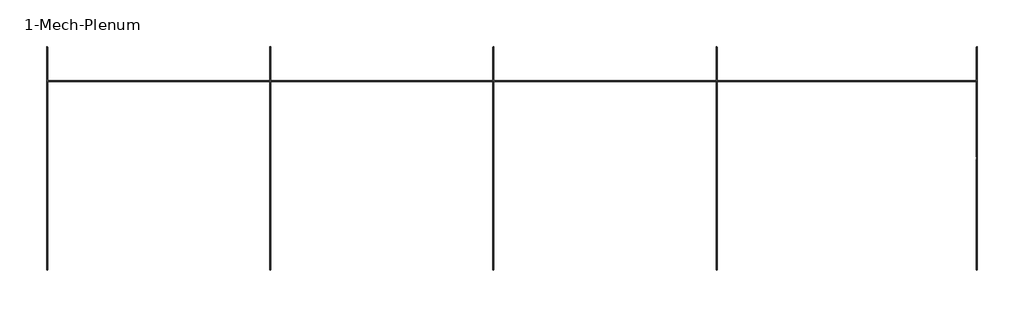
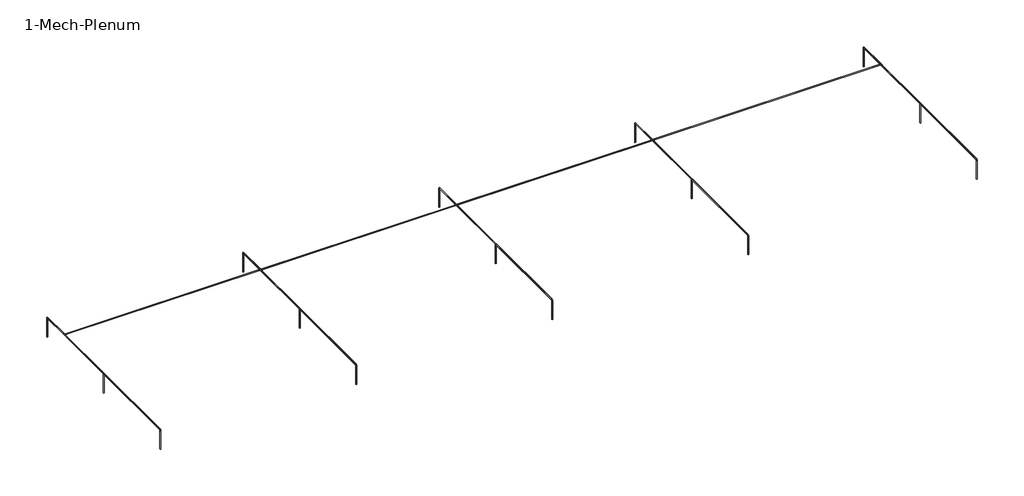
# One storey: 34 pipe segments, 20 pipe fittings.
"""IFC4 building model written with IfcOpenShell, lengths in millimetres."""

from ifc_helpers import new_model, si_unit, point, frame, frame_2d, origin, place, context, project, spatial, circle_curve, trimmed, segment, composite_curve, outline, extrude, transform, mapped, element, save
from components import cross_generic_standard_dbe3c70b, elbow_generic_standard_a088f956, tee_generic_standard_5b2ed4d4

model = new_model("IFC4")

# Units and contexts
model_context = context("Model", 3, world=origin())
ifc_project = project(units=[si_unit("LENGTHUNIT", "METRE", prefix="MILLI")], contexts=[model_context])

# Site, building, storey
site = spatial("IfcSite", under=ifc_project)
building = spatial("IfcBuilding", under=site)
storey = spatial("IfcBuildingStorey", under=building, Name="1-Mech-Plenum", Elevation=2514.6)

# Pipe fittings
placement = place(None, origin())
cross_generic_standard_shape = cross_generic_standard_dbe3c70b(model_context)
element("IfcPipeFitting", 1, ObjectType="Cross - Generic : Standard", at=placement, inside=storey, context=model_context, shape_type="MappedRepresentation", body=[
    mapped(cross_generic_standard_shape, transform((-30646.6605923, 16917.6658433, 2895.6), x_axis=(0.0, 1.0, 0.0), y_axis=(-1.0, 0.0, 0.0), z_axis=(0.0, 0.0, 1.0))),
])
element("IfcPipeFitting", 2, ObjectType="Cross - Generic : Standard", at=placement, inside=storey, context=model_context, shape_type="MappedRepresentation", body=[
    mapped(cross_generic_standard_shape, transform((-26989.0605923, 16917.6658433, 2895.6), x_axis=(0.0, 1.0, 0.0), y_axis=(-1.0, 0.0, 0.0), z_axis=(0.0, 0.0, 1.0))),
])
element("IfcPipeFitting", 3, ObjectType="Cross - Generic : Standard", at=placement, inside=storey, context=model_context, shape_type="MappedRepresentation", body=[
    mapped(cross_generic_standard_shape, transform((-23331.4605923, 16917.6658433, 2895.6), x_axis=(0.0, 1.0, 0.0), y_axis=(-1.0, 0.0, 0.0), z_axis=(0.0, 0.0, 1.0))),
])
elbow_generic_standard_shape = elbow_generic_standard_a088f956(model_context)
element("IfcPipeFitting", 4, ObjectType="Elbow - Generic : Standard", at=placement, inside=storey, context=model_context, shape_type="MappedRepresentation", body=[
    mapped(elbow_generic_standard_shape, transform((-34304.2605923, 17476.465681, 2895.6), x_axis=(0.0, 0.0, 1.0), y_axis=(0.0, -1.0, 0.0), z_axis=(1.0, 0.0, 0.0))),
])
element("IfcPipeFitting", 5, ObjectType="Elbow - Generic : Standard", at=placement, inside=storey, context=model_context, shape_type="MappedRepresentation", body=[
    mapped(elbow_generic_standard_shape, transform((-30646.6605923, 17476.465681, 2895.6), x_axis=(0.0, 0.0, 1.0), y_axis=(0.0, -1.0, 0.0), z_axis=(1.0, 0.0, 0.0))),
])
element("IfcPipeFitting", 6, ObjectType="Elbow - Generic : Standard", at=placement, inside=storey, context=model_context, shape_type="MappedRepresentation", body=[
    mapped(elbow_generic_standard_shape, transform((-26989.0605923, 17476.465681, 2895.6), x_axis=(0.0, 0.0, 1.0), y_axis=(0.0, -1.0, 0.0), z_axis=(1.0, 0.0, 0.0))),
])
element("IfcPipeFitting", 7, ObjectType="Elbow - Generic : Standard", at=placement, inside=storey, context=model_context, shape_type="MappedRepresentation", body=[
    mapped(elbow_generic_standard_shape, transform((-23331.4605923, 17476.465681, 2895.6), x_axis=(0.0, 0.0, 1.0), y_axis=(0.0, -1.0, 0.0), z_axis=(1.0, 0.0, 0.0))),
])
element("IfcPipeFitting", 8, ObjectType="Elbow - Generic : Standard", at=placement, inside=storey, context=model_context, shape_type="MappedRepresentation", body=[
    mapped(elbow_generic_standard_shape, transform((-19064.2605923, 17476.465681, 2895.6), x_axis=(0.0, 0.0, 1.0), y_axis=(0.0, -1.0, 0.0), z_axis=(1.0, 0.0, 0.0))),
])
element("IfcPipeFitting", 9, ObjectType="Elbow - Generic : Standard", at=placement, inside=storey, context=model_context, shape_type="MappedRepresentation", body=[
    mapped(elbow_generic_standard_shape, transform((-34304.2605923, 13821.54154, 2895.6), x_axis=(0.0, 0.0, 1.0), y_axis=(0.0, 1.0, 0.0), z_axis=(-1.0, 0.0, 0.0))),
])
element("IfcPipeFitting", 10, ObjectType="Elbow - Generic : Standard", at=placement, inside=storey, context=model_context, shape_type="MappedRepresentation", body=[
    mapped(elbow_generic_standard_shape, transform((-30646.6605923, 13821.54154, 2895.6), x_axis=(0.0, 0.0, 1.0), y_axis=(0.0, 1.0, 0.0), z_axis=(-1.0, 0.0, 0.0))),
])
element("IfcPipeFitting", 11, ObjectType="Elbow - Generic : Standard", at=placement, inside=storey, context=model_context, shape_type="MappedRepresentation", body=[
    mapped(elbow_generic_standard_shape, transform((-26989.0605923, 13821.54154, 2895.6), x_axis=(0.0, 0.0, 1.0), y_axis=(0.0, 1.0, 0.0), z_axis=(-1.0, 0.0, 0.0))),
])
element("IfcPipeFitting", 12, ObjectType="Elbow - Generic : Standard", at=placement, inside=storey, context=model_context, shape_type="MappedRepresentation", body=[
    mapped(elbow_generic_standard_shape, transform((-23331.4605923, 13821.54154, 2895.6), x_axis=(0.0, 0.0, 1.0), y_axis=(0.0, 1.0, 0.0), z_axis=(-1.0, 0.0, 0.0))),
])
element("IfcPipeFitting", 13, ObjectType="Elbow - Generic : Standard", at=placement, inside=storey, context=model_context, shape_type="MappedRepresentation", body=[
    mapped(elbow_generic_standard_shape, transform((-19064.2605923, 13821.54154, 2895.6), x_axis=(0.0, 0.0, 1.0), y_axis=(0.0, 1.0, 0.0), z_axis=(-1.0, 0.0, 0.0))),
])
tee_generic_standard_shape = tee_generic_standard_5b2ed4d4(model_context)
element("IfcPipeFitting", 14, ObjectType="Tee - Generic : Standard", at=placement, inside=storey, context=model_context, shape_type="MappedRepresentation", body=[
    mapped(tee_generic_standard_shape, transform((-30646.6605923, 15647.665681, 2895.6), x_axis=(0.0, -1.0, 0.0), y_axis=(0.0, 0.0, 1.0), z_axis=(-1.0, 0.0, 0.0))),
])
element("IfcPipeFitting", 15, ObjectType="Tee - Generic : Standard", at=placement, inside=storey, context=model_context, shape_type="MappedRepresentation", body=[
    mapped(tee_generic_standard_shape, transform((-26989.0605923, 15647.665681, 2895.6), x_axis=(0.0, -1.0, 0.0), y_axis=(0.0, 0.0, 1.0), z_axis=(-1.0, 0.0, 0.0))),
])
element("IfcPipeFitting", 16, ObjectType="Tee - Generic : Standard", at=placement, inside=storey, context=model_context, shape_type="MappedRepresentation", body=[
    mapped(tee_generic_standard_shape, transform((-23331.4605923, 15647.665681, 2895.6), x_axis=(0.0, -1.0, 0.0), y_axis=(0.0, 0.0, 1.0), z_axis=(-1.0, 0.0, 0.0))),
])
element("IfcPipeFitting", 17, ObjectType="Tee - Generic : Standard", at=placement, inside=storey, context=model_context, shape_type="MappedRepresentation", body=[
    mapped(tee_generic_standard_shape, transform((-19064.2605923, 15647.665681, 2895.6), x_axis=(0.0, -1.0, 0.0), y_axis=(0.0, 0.0, 1.0), z_axis=(-1.0, 0.0, 0.0))),
])
element("IfcPipeFitting", 18, ObjectType="Tee - Generic : Standard", at=placement, inside=storey, context=model_context, shape_type="MappedRepresentation", body=[
    mapped(tee_generic_standard_shape, transform((-19064.2605923, 16917.6658433, 2895.6), x_axis=(0.0, 1.0, 0.0), y_axis=(1.0, 0.0, 0.0), z_axis=(0.0, 0.0, -1.0))),
])
element("IfcPipeFitting", 19, ObjectType="Tee - Generic : Standard", at=placement, inside=storey, context=model_context, shape_type="MappedRepresentation", body=[
    mapped(tee_generic_standard_shape, transform((-34304.2605923, 16917.6658433, 2895.6), x_axis=(0.0, 1.0, 0.0), y_axis=(-1.0, 0.0, 0.0), z_axis=(0.0, 0.0, 1.0))),
])
element("IfcPipeFitting", 20, ObjectType="Tee - Generic : Standard", at=placement, inside=storey, context=model_context, shape_type="MappedRepresentation", body=[
    mapped(tee_generic_standard_shape, transform((-34304.2605923, 15647.665681, 2895.6), x_axis=(0.0, -1.0, 0.0), y_axis=(0.0, 0.0, 1.0), z_axis=(-1.0, 0.0, 0.0))),
])

# Pipe segments
element("IfcPipeSegment", 21, ObjectType="Wet Protection-Fire", at=placement, inside=storey, context=model_context, shape_type="SweptSolid", body=[
    extrude(outline(composite_curve([segment(trimmed(circle_curve(frame_2d((2895.6, -30646.6605923)), 7.9375), [point((2895.6, -30638.7230923))], [point((2903.5375, -30646.6605923))], False, "CARTESIAN"), True, "CONTINUOUS"), segment(trimmed(circle_curve(frame_2d((2895.6, -30646.6605923)), 7.9375), [point((2903.5375, -30646.6605923))], [point((2895.6, -30654.5980923))], False, "CARTESIAN"), True, "CONTINUOUS"), segment(trimmed(circle_curve(frame_2d((2895.6, -30646.6605923)), 7.9375), [point((2895.6, -30654.5980923))], [point((2887.6625, -30646.6605923))], False, "CARTESIAN"), True, "CONTINUOUS"), segment(trimmed(circle_curve(frame_2d((2895.6, -30646.6605923)), 7.9375), [point((2887.6625, -30646.6605923))], [point((2895.6, -30638.7230923))], False, "CARTESIAN"), True, "CONTINUOUS")], self_intersect=False)), frame((0.0, 15668.303181, 0.0), z_axis=(0.0, 1.0, 0.0), x_axis=(0.0, 0.0, 1.0)), (0.0, 0.0, 1.0), 1228.7251623),
])
element("IfcPipeSegment", 22, ObjectType="Wet Protection-Fire", at=placement, inside=storey, context=model_context, shape_type="SweptSolid", body=[
    extrude(outline(composite_curve([segment(trimmed(circle_curve(frame_2d((2895.6, -26989.0605923)), 7.9375), [point((2895.6, -26981.1230923))], [point((2903.5375, -26989.0605923))], False, "CARTESIAN"), True, "CONTINUOUS"), segment(trimmed(circle_curve(frame_2d((2895.6, -26989.0605923)), 7.9375), [point((2903.5375, -26989.0605923))], [point((2895.6, -26996.9980923))], False, "CARTESIAN"), True, "CONTINUOUS"), segment(trimmed(circle_curve(frame_2d((2895.6, -26989.0605923)), 7.9375), [point((2895.6, -26996.9980923))], [point((2887.6625, -26989.0605923))], False, "CARTESIAN"), True, "CONTINUOUS"), segment(trimmed(circle_curve(frame_2d((2895.6, -26989.0605923)), 7.9375), [point((2887.6625, -26989.0605923))], [point((2895.6, -26981.1230923))], False, "CARTESIAN"), True, "CONTINUOUS")], self_intersect=False)), frame((0.0, 15668.303181, 0.0), z_axis=(0.0, 1.0, 0.0), x_axis=(0.0, 0.0, 1.0)), (0.0, 0.0, 1.0), 1228.7251623),
])
element("IfcPipeSegment", 23, ObjectType="Wet Protection-Fire", at=placement, inside=storey, context=model_context, shape_type="SweptSolid", body=[
    extrude(outline(composite_curve([segment(trimmed(circle_curve(frame_2d((2895.6, -23331.4605923)), 7.9375), [point((2895.6, -23323.5230923))], [point((2903.5375, -23331.4605923))], False, "CARTESIAN"), True, "CONTINUOUS"), segment(trimmed(circle_curve(frame_2d((2895.6, -23331.4605923)), 7.9375), [point((2903.5375, -23331.4605923))], [point((2895.6, -23339.3980923))], False, "CARTESIAN"), True, "CONTINUOUS"), segment(trimmed(circle_curve(frame_2d((2895.6, -23331.4605923)), 7.9375), [point((2895.6, -23339.3980923))], [point((2887.6625, -23331.4605923))], False, "CARTESIAN"), True, "CONTINUOUS"), segment(trimmed(circle_curve(frame_2d((2895.6, -23331.4605923)), 7.9375), [point((2887.6625, -23331.4605923))], [point((2895.6, -23323.5230923))], False, "CARTESIAN"), True, "CONTINUOUS")], self_intersect=False)), frame((0.0, 15668.303181, 0.0), z_axis=(0.0, 1.0, 0.0), x_axis=(0.0, 0.0, 1.0)), (0.0, 0.0, 1.0), 1228.7251623),
])
element("IfcPipeSegment", 24, ObjectType="Wet Protection-Fire", at=placement, inside=storey, context=model_context, shape_type="SweptSolid", body=[
    extrude(outline(composite_curve([segment(trimmed(circle_curve(frame_2d((2895.6, -19064.2605923)), 7.9375), [point((2895.6, -19056.3230923))], [point((2903.5375, -19064.2605923))], False, "CARTESIAN"), True, "CONTINUOUS"), segment(trimmed(circle_curve(frame_2d((2895.6, -19064.2605923)), 7.9375), [point((2903.5375, -19064.2605923))], [point((2895.6, -19072.1980923))], False, "CARTESIAN"), True, "CONTINUOUS"), segment(trimmed(circle_curve(frame_2d((2895.6, -19064.2605923)), 7.9375), [point((2895.6, -19072.1980923))], [point((2887.6625, -19064.2605923))], False, "CARTESIAN"), True, "CONTINUOUS"), segment(trimmed(circle_curve(frame_2d((2895.6, -19064.2605923)), 7.9375), [point((2887.6625, -19064.2605923))], [point((2895.6, -19056.3230923))], False, "CARTESIAN"), True, "CONTINUOUS")], self_intersect=False)), frame((0.0, 15668.303181, 0.0), z_axis=(0.0, 1.0, 0.0), x_axis=(0.0, 0.0, 1.0)), (0.0, 0.0, 1.0), 1228.7251623),
])
element("IfcPipeSegment", 25, ObjectType="Wet Protection-Fire", at=placement, inside=storey, context=model_context, shape_type="SweptSolid", body=[
    extrude(outline(composite_curve([segment(trimmed(circle_curve(frame_2d((16917.6658433, 2895.6)), 7.9375), [point((16925.6033433, 2895.6))], [point((16917.6658433, 2887.6625))], False, "CARTESIAN"), True, "CONTINUOUS"), segment(trimmed(circle_curve(frame_2d((16917.6658433, 2895.6)), 7.9375), [point((16917.6658433, 2887.6625))], [point((16909.7283433, 2895.6))], False, "CARTESIAN"), True, "CONTINUOUS"), segment(trimmed(circle_curve(frame_2d((16917.6658433, 2895.6)), 7.9375), [point((16909.7283433, 2895.6))], [point((16917.6658433, 2903.5375))], False, "CARTESIAN"), True, "CONTINUOUS"), segment(trimmed(circle_curve(frame_2d((16917.6658433, 2895.6)), 7.9375), [point((16917.6658433, 2903.5375))], [point((16925.6033433, 2895.6))], False, "CARTESIAN"), True, "CONTINUOUS")], self_intersect=False)), frame((-23310.8230923, 0.0, 0.0), z_axis=(1.0, 0.0, 0.0), x_axis=(0.0, 1.0, 0.0)), (0.0, 0.0, 1.0), 4225.925),
])
element("IfcPipeSegment", 26, ObjectType="Wet Protection-Fire", at=placement, inside=storey, context=model_context, shape_type="SweptSolid", body=[
    extrude(outline(composite_curve([segment(trimmed(circle_curve(frame_2d((16917.6658433, 2895.6)), 7.9375), [point((16925.6033433, 2895.6))], [point((16917.6658433, 2887.6625))], False, "CARTESIAN"), True, "CONTINUOUS"), segment(trimmed(circle_curve(frame_2d((16917.6658433, 2895.6)), 7.9375), [point((16917.6658433, 2887.6625))], [point((16909.7283433, 2895.6))], False, "CARTESIAN"), True, "CONTINUOUS"), segment(trimmed(circle_curve(frame_2d((16917.6658433, 2895.6)), 7.9375), [point((16909.7283433, 2895.6))], [point((16917.6658433, 2903.5375))], False, "CARTESIAN"), True, "CONTINUOUS"), segment(trimmed(circle_curve(frame_2d((16917.6658433, 2895.6)), 7.9375), [point((16917.6658433, 2903.5375))], [point((16925.6033433, 2895.6))], False, "CARTESIAN"), True, "CONTINUOUS")], self_intersect=False)), frame((-26968.4230923, 0.0, 0.0), z_axis=(1.0, 0.0, 0.0), x_axis=(0.0, 1.0, 0.0)), (0.0, 0.0, 1.0), 3616.325),
])
element("IfcPipeSegment", 27, ObjectType="Wet Protection-Fire", at=placement, inside=storey, context=model_context, shape_type="SweptSolid", body=[
    extrude(outline(composite_curve([segment(trimmed(circle_curve(frame_2d((16917.6658433, 2895.6)), 7.9375), [point((16925.6033433, 2895.6))], [point((16917.6658433, 2887.6625))], False, "CARTESIAN"), True, "CONTINUOUS"), segment(trimmed(circle_curve(frame_2d((16917.6658433, 2895.6)), 7.9375), [point((16917.6658433, 2887.6625))], [point((16909.7283433, 2895.6))], False, "CARTESIAN"), True, "CONTINUOUS"), segment(trimmed(circle_curve(frame_2d((16917.6658433, 2895.6)), 7.9375), [point((16909.7283433, 2895.6))], [point((16917.6658433, 2903.5375))], False, "CARTESIAN"), True, "CONTINUOUS"), segment(trimmed(circle_curve(frame_2d((16917.6658433, 2895.6)), 7.9375), [point((16917.6658433, 2903.5375))], [point((16925.6033433, 2895.6))], False, "CARTESIAN"), True, "CONTINUOUS")], self_intersect=False)), frame((-30626.0230923, 0.0, 0.0), z_axis=(1.0, 0.0, 0.0), x_axis=(0.0, 1.0, 0.0)), (0.0, 0.0, 1.0), 3616.325),
])
element("IfcPipeSegment", 28, ObjectType="Wet Protection-Fire", at=placement, inside=storey, context=model_context, shape_type="SweptSolid", body=[
    extrude(outline(composite_curve([segment(trimmed(circle_curve(frame_2d((16917.6658433, 2895.6)), 7.9375), [point((16925.6033433, 2895.6))], [point((16917.6658433, 2887.6625))], False, "CARTESIAN"), True, "CONTINUOUS"), segment(trimmed(circle_curve(frame_2d((16917.6658433, 2895.6)), 7.9375), [point((16917.6658433, 2887.6625))], [point((16909.7283433, 2895.6))], False, "CARTESIAN"), True, "CONTINUOUS"), segment(trimmed(circle_curve(frame_2d((16917.6658433, 2895.6)), 7.9375), [point((16909.7283433, 2895.6))], [point((16917.6658433, 2903.5375))], False, "CARTESIAN"), True, "CONTINUOUS"), segment(trimmed(circle_curve(frame_2d((16917.6658433, 2895.6)), 7.9375), [point((16917.6658433, 2903.5375))], [point((16925.6033433, 2895.6))], False, "CARTESIAN"), True, "CONTINUOUS")], self_intersect=False)), frame((-34283.6230923, 0.0, 0.0), z_axis=(1.0, 0.0, 0.0), x_axis=(0.0, 1.0, 0.0)), (0.0, 0.0, 1.0), 3616.325),
])
element("IfcPipeSegment", 29, ObjectType="Wet Protection-Fire", at=placement, inside=storey, context=model_context, shape_type="SweptSolid", body=[
    extrude(outline(composite_curve([segment(trimmed(circle_curve(frame_2d((2895.6, -34304.2605923)), 7.9375), [point((2895.6, -34312.1980923))], [point((2887.6625, -34304.2605923))], False, "CARTESIAN"), True, "CONTINUOUS"), segment(trimmed(circle_curve(frame_2d((2895.6, -34304.2605923)), 7.9375), [point((2887.6625, -34304.2605923))], [point((2895.6, -34296.3230923))], False, "CARTESIAN"), True, "CONTINUOUS"), segment(trimmed(circle_curve(frame_2d((2895.6, -34304.2605923)), 7.9375), [point((2895.6, -34296.3230923))], [point((2903.5375, -34304.2605923))], False, "CARTESIAN"), True, "CONTINUOUS"), segment(trimmed(circle_curve(frame_2d((2895.6, -34304.2605923)), 7.9375), [point((2903.5375, -34304.2605923))], [point((2895.6, -34312.1980923))], False, "CARTESIAN"), True, "CONTINUOUS")], self_intersect=False)), frame((0.0, 15668.303181, 0.0), z_axis=(0.0, 1.0, 0.0), x_axis=(0.0, 0.0, 1.0)), (0.0, 0.0, 1.0), 1228.7251623),
])
element("IfcPipeSegment", 30, ObjectType="Wet Protection-Fire", at=placement, inside=storey, context=model_context, shape_type="SweptSolid", body=[
    extrude(outline(composite_curve([segment(trimmed(circle_curve(frame_2d((-34304.2605923, 15647.665681)), 7.9375), [point((-34312.1980923, 15647.665681))], [point((-34304.2605923, 15655.603181))], False, "CARTESIAN"), True, "CONTINUOUS"), segment(trimmed(circle_curve(frame_2d((-34304.2605923, 15647.665681)), 7.9375), [point((-34304.2605923, 15655.603181))], [point((-34296.3230923, 15647.665681))], False, "CARTESIAN"), True, "CONTINUOUS"), segment(trimmed(circle_curve(frame_2d((-34304.2605923, 15647.665681)), 7.9375), [point((-34296.3230923, 15647.665681))], [point((-34304.2605923, 15639.728181))], False, "CARTESIAN"), True, "CONTINUOUS"), segment(trimmed(circle_curve(frame_2d((-34304.2605923, 15647.665681)), 7.9375), [point((-34304.2605923, 15639.728181))], [point((-34312.1980923, 15647.665681))], False, "CARTESIAN"), True, "CONTINUOUS")], self_intersect=False)), frame((0.0, 0.0, 2514.6), z_axis=(0.0, 0.0, 1.0), x_axis=(1.0, 0.0, 0.0)), (0.0, 0.0, 1.0), 360.3625),
])
element("IfcPipeSegment", 31, ObjectType="Wet Protection-Fire", at=placement, inside=storey, context=model_context, shape_type="SweptSolid", body=[
    extrude(outline(composite_curve([segment(trimmed(circle_curve(frame_2d((-30646.6605923, 15647.665681)), 7.9375), [point((-30654.5980923, 15647.665681))], [point((-30646.6605923, 15655.603181))], False, "CARTESIAN"), True, "CONTINUOUS"), segment(trimmed(circle_curve(frame_2d((-30646.6605923, 15647.665681)), 7.9375), [point((-30646.6605923, 15655.603181))], [point((-30638.7230923, 15647.665681))], False, "CARTESIAN"), True, "CONTINUOUS"), segment(trimmed(circle_curve(frame_2d((-30646.6605923, 15647.665681)), 7.9375), [point((-30638.7230923, 15647.665681))], [point((-30646.6605923, 15639.728181))], False, "CARTESIAN"), True, "CONTINUOUS"), segment(trimmed(circle_curve(frame_2d((-30646.6605923, 15647.665681)), 7.9375), [point((-30646.6605923, 15639.728181))], [point((-30654.5980923, 15647.665681))], False, "CARTESIAN"), True, "CONTINUOUS")], self_intersect=False)), frame((0.0, 0.0, 2514.6), z_axis=(0.0, 0.0, 1.0), x_axis=(1.0, 0.0, 0.0)), (0.0, 0.0, 1.0), 360.3625),
])
element("IfcPipeSegment", 32, ObjectType="Wet Protection-Fire", at=placement, inside=storey, context=model_context, shape_type="SweptSolid", body=[
    extrude(outline(composite_curve([segment(trimmed(circle_curve(frame_2d((-26989.0605923, 15647.665681)), 7.9375), [point((-26996.9980923, 15647.665681))], [point((-26989.0605923, 15655.603181))], False, "CARTESIAN"), True, "CONTINUOUS"), segment(trimmed(circle_curve(frame_2d((-26989.0605923, 15647.665681)), 7.9375), [point((-26989.0605923, 15655.603181))], [point((-26981.1230923, 15647.665681))], False, "CARTESIAN"), True, "CONTINUOUS"), segment(trimmed(circle_curve(frame_2d((-26989.0605923, 15647.665681)), 7.9375), [point((-26981.1230923, 15647.665681))], [point((-26989.0605923, 15639.728181))], False, "CARTESIAN"), True, "CONTINUOUS"), segment(trimmed(circle_curve(frame_2d((-26989.0605923, 15647.665681)), 7.9375), [point((-26989.0605923, 15639.728181))], [point((-26996.9980923, 15647.665681))], False, "CARTESIAN"), True, "CONTINUOUS")], self_intersect=False)), frame((0.0, 0.0, 2514.6), z_axis=(0.0, 0.0, 1.0), x_axis=(1.0, 0.0, 0.0)), (0.0, 0.0, 1.0), 360.3625),
])
element("IfcPipeSegment", 33, ObjectType="Wet Protection-Fire", at=placement, inside=storey, context=model_context, shape_type="SweptSolid", body=[
    extrude(outline(composite_curve([segment(trimmed(circle_curve(frame_2d((-23331.4605923, 15647.665681)), 7.9375), [point((-23339.3980923, 15647.665681))], [point((-23331.4605923, 15655.603181))], False, "CARTESIAN"), True, "CONTINUOUS"), segment(trimmed(circle_curve(frame_2d((-23331.4605923, 15647.665681)), 7.9375), [point((-23331.4605923, 15655.603181))], [point((-23323.5230923, 15647.665681))], False, "CARTESIAN"), True, "CONTINUOUS"), segment(trimmed(circle_curve(frame_2d((-23331.4605923, 15647.665681)), 7.9375), [point((-23323.5230923, 15647.665681))], [point((-23331.4605923, 15639.728181))], False, "CARTESIAN"), True, "CONTINUOUS"), segment(trimmed(circle_curve(frame_2d((-23331.4605923, 15647.665681)), 7.9375), [point((-23331.4605923, 15639.728181))], [point((-23339.3980923, 15647.665681))], False, "CARTESIAN"), True, "CONTINUOUS")], self_intersect=False)), frame((0.0, 0.0, 2514.6), z_axis=(0.0, 0.0, 1.0), x_axis=(1.0, 0.0, 0.0)), (0.0, 0.0, 1.0), 360.3625),
])
element("IfcPipeSegment", 34, ObjectType="Wet Protection-Fire", at=placement, inside=storey, context=model_context, shape_type="SweptSolid", body=[
    extrude(outline(composite_curve([segment(trimmed(circle_curve(frame_2d((-19064.2605923, 15647.665681)), 7.9375), [point((-19072.1980923, 15647.665681))], [point((-19064.2605923, 15655.603181))], False, "CARTESIAN"), True, "CONTINUOUS"), segment(trimmed(circle_curve(frame_2d((-19064.2605923, 15647.665681)), 7.9375), [point((-19064.2605923, 15655.603181))], [point((-19056.3230923, 15647.665681))], False, "CARTESIAN"), True, "CONTINUOUS"), segment(trimmed(circle_curve(frame_2d((-19064.2605923, 15647.665681)), 7.9375), [point((-19056.3230923, 15647.665681))], [point((-19064.2605923, 15639.728181))], False, "CARTESIAN"), True, "CONTINUOUS"), segment(trimmed(circle_curve(frame_2d((-19064.2605923, 15647.665681)), 7.9375), [point((-19064.2605923, 15639.728181))], [point((-19072.1980923, 15647.665681))], False, "CARTESIAN"), True, "CONTINUOUS")], self_intersect=False)), frame((0.0, 0.0, 2514.6), z_axis=(0.0, 0.0, 1.0), x_axis=(1.0, 0.0, 0.0)), (0.0, 0.0, 1.0), 360.3625),
])
element("IfcPipeSegment", 35, ObjectType="Wet Protection-Fire", at=placement, inside=storey, context=model_context, shape_type="SweptSolid", body=[
    extrude(outline(composite_curve([segment(trimmed(circle_curve(frame_2d((2895.6, -34304.2605923)), 7.9375), [point((2895.6, -34312.1980923))], [point((2887.6625, -34304.2605923))], False, "CARTESIAN"), True, "CONTINUOUS"), segment(trimmed(circle_curve(frame_2d((2895.6, -34304.2605923)), 7.9375), [point((2887.6625, -34304.2605923))], [point((2895.6, -34296.3230923))], False, "CARTESIAN"), True, "CONTINUOUS"), segment(trimmed(circle_curve(frame_2d((2895.6, -34304.2605923)), 7.9375), [point((2895.6, -34296.3230923))], [point((2903.5375, -34304.2605923))], False, "CARTESIAN"), True, "CONTINUOUS"), segment(trimmed(circle_curve(frame_2d((2895.6, -34304.2605923)), 7.9375), [point((2903.5375, -34304.2605923))], [point((2895.6, -34312.1980923))], False, "CARTESIAN"), True, "CONTINUOUS")], self_intersect=False)), frame((0.0, 16938.3033433, 0.0), z_axis=(0.0, 1.0, 0.0), x_axis=(0.0, 0.0, 1.0)), (0.0, 0.0, 1.0), 523.8748377),
])
element("IfcPipeSegment", 36, ObjectType="Wet Protection-Fire", at=placement, inside=storey, context=model_context, shape_type="SweptSolid", body=[
    extrude(outline(composite_curve([segment(trimmed(circle_curve(frame_2d((-34304.2605923, 17476.465681)), 7.9375), [point((-34312.1980923, 17476.465681))], [point((-34304.2605923, 17484.403181))], False, "CARTESIAN"), True, "CONTINUOUS"), segment(trimmed(circle_curve(frame_2d((-34304.2605923, 17476.465681)), 7.9375), [point((-34304.2605923, 17484.403181))], [point((-34296.3230923, 17476.465681))], False, "CARTESIAN"), True, "CONTINUOUS"), segment(trimmed(circle_curve(frame_2d((-34304.2605923, 17476.465681)), 7.9375), [point((-34296.3230923, 17476.465681))], [point((-34304.2605923, 17468.528181))], False, "CARTESIAN"), True, "CONTINUOUS"), segment(trimmed(circle_curve(frame_2d((-34304.2605923, 17476.465681)), 7.9375), [point((-34304.2605923, 17468.528181))], [point((-34312.1980923, 17476.465681))], False, "CARTESIAN"), True, "CONTINUOUS")], self_intersect=False)), frame((0.0, 0.0, 2514.6), z_axis=(0.0, 0.0, 1.0), x_axis=(1.0, 0.0, 0.0)), (0.0, 0.0, 1.0), 366.7125),
])
element("IfcPipeSegment", 37, ObjectType="Wet Protection-Fire", at=placement, inside=storey, context=model_context, shape_type="SweptSolid", body=[
    extrude(outline(composite_curve([segment(trimmed(circle_curve(frame_2d((2895.6, -30646.6605923)), 7.9375), [point((2895.6, -30654.5980923))], [point((2887.6625, -30646.6605923))], False, "CARTESIAN"), True, "CONTINUOUS"), segment(trimmed(circle_curve(frame_2d((2895.6, -30646.6605923)), 7.9375), [point((2887.6625, -30646.6605923))], [point((2895.6, -30638.7230923))], False, "CARTESIAN"), True, "CONTINUOUS"), segment(trimmed(circle_curve(frame_2d((2895.6, -30646.6605923)), 7.9375), [point((2895.6, -30638.7230923))], [point((2903.5375, -30646.6605923))], False, "CARTESIAN"), True, "CONTINUOUS"), segment(trimmed(circle_curve(frame_2d((2895.6, -30646.6605923)), 7.9375), [point((2903.5375, -30646.6605923))], [point((2895.6, -30654.5980923))], False, "CARTESIAN"), True, "CONTINUOUS")], self_intersect=False)), frame((0.0, 16938.3033433, 0.0), z_axis=(0.0, 1.0, 0.0), x_axis=(0.0, 0.0, 1.0)), (0.0, 0.0, 1.0), 523.8748377),
])
element("IfcPipeSegment", 38, ObjectType="Wet Protection-Fire", at=placement, inside=storey, context=model_context, shape_type="SweptSolid", body=[
    extrude(outline(composite_curve([segment(trimmed(circle_curve(frame_2d((-30646.6605923, 17476.465681)), 7.9375), [point((-30654.5980923, 17476.465681))], [point((-30646.6605923, 17484.403181))], False, "CARTESIAN"), True, "CONTINUOUS"), segment(trimmed(circle_curve(frame_2d((-30646.6605923, 17476.465681)), 7.9375), [point((-30646.6605923, 17484.403181))], [point((-30638.7230923, 17476.465681))], False, "CARTESIAN"), True, "CONTINUOUS"), segment(trimmed(circle_curve(frame_2d((-30646.6605923, 17476.465681)), 7.9375), [point((-30638.7230923, 17476.465681))], [point((-30646.6605923, 17468.528181))], False, "CARTESIAN"), True, "CONTINUOUS"), segment(trimmed(circle_curve(frame_2d((-30646.6605923, 17476.465681)), 7.9375), [point((-30646.6605923, 17468.528181))], [point((-30654.5980923, 17476.465681))], False, "CARTESIAN"), True, "CONTINUOUS")], self_intersect=False)), frame((0.0, 0.0, 2514.6), z_axis=(0.0, 0.0, 1.0), x_axis=(1.0, 0.0, 0.0)), (0.0, 0.0, 1.0), 366.7125),
])
element("IfcPipeSegment", 39, ObjectType="Wet Protection-Fire", at=placement, inside=storey, context=model_context, shape_type="SweptSolid", body=[
    extrude(outline(composite_curve([segment(trimmed(circle_curve(frame_2d((2895.6, -26989.0605923)), 7.9375), [point((2895.6, -26996.9980923))], [point((2887.6625, -26989.0605923))], False, "CARTESIAN"), True, "CONTINUOUS"), segment(trimmed(circle_curve(frame_2d((2895.6, -26989.0605923)), 7.9375), [point((2887.6625, -26989.0605923))], [point((2895.6, -26981.1230923))], False, "CARTESIAN"), True, "CONTINUOUS"), segment(trimmed(circle_curve(frame_2d((2895.6, -26989.0605923)), 7.9375), [point((2895.6, -26981.1230923))], [point((2903.5375, -26989.0605923))], False, "CARTESIAN"), True, "CONTINUOUS"), segment(trimmed(circle_curve(frame_2d((2895.6, -26989.0605923)), 7.9375), [point((2903.5375, -26989.0605923))], [point((2895.6, -26996.9980923))], False, "CARTESIAN"), True, "CONTINUOUS")], self_intersect=False)), frame((0.0, 16938.3033433, 0.0), z_axis=(0.0, 1.0, 0.0), x_axis=(0.0, 0.0, 1.0)), (0.0, 0.0, 1.0), 523.8748377),
])
element("IfcPipeSegment", 40, ObjectType="Wet Protection-Fire", at=placement, inside=storey, context=model_context, shape_type="SweptSolid", body=[
    extrude(outline(composite_curve([segment(trimmed(circle_curve(frame_2d((-26989.0605923, 17476.465681)), 7.9375), [point((-26996.9980923, 17476.465681))], [point((-26989.0605923, 17484.403181))], False, "CARTESIAN"), True, "CONTINUOUS"), segment(trimmed(circle_curve(frame_2d((-26989.0605923, 17476.465681)), 7.9375), [point((-26989.0605923, 17484.403181))], [point((-26981.1230923, 17476.465681))], False, "CARTESIAN"), True, "CONTINUOUS"), segment(trimmed(circle_curve(frame_2d((-26989.0605923, 17476.465681)), 7.9375), [point((-26981.1230923, 17476.465681))], [point((-26989.0605923, 17468.528181))], False, "CARTESIAN"), True, "CONTINUOUS"), segment(trimmed(circle_curve(frame_2d((-26989.0605923, 17476.465681)), 7.9375), [point((-26989.0605923, 17468.528181))], [point((-26996.9980923, 17476.465681))], False, "CARTESIAN"), True, "CONTINUOUS")], self_intersect=False)), frame((0.0, 0.0, 2514.6), z_axis=(0.0, 0.0, 1.0), x_axis=(1.0, 0.0, 0.0)), (0.0, 0.0, 1.0), 366.7125),
])
element("IfcPipeSegment", 41, ObjectType="Wet Protection-Fire", at=placement, inside=storey, context=model_context, shape_type="SweptSolid", body=[
    extrude(outline(composite_curve([segment(trimmed(circle_curve(frame_2d((2895.6, -23331.4605923)), 7.9375), [point((2895.6, -23339.3980923))], [point((2887.6625, -23331.4605923))], False, "CARTESIAN"), True, "CONTINUOUS"), segment(trimmed(circle_curve(frame_2d((2895.6, -23331.4605923)), 7.9375), [point((2887.6625, -23331.4605923))], [point((2895.6, -23323.5230923))], False, "CARTESIAN"), True, "CONTINUOUS"), segment(trimmed(circle_curve(frame_2d((2895.6, -23331.4605923)), 7.9375), [point((2895.6, -23323.5230923))], [point((2903.5375, -23331.4605923))], False, "CARTESIAN"), True, "CONTINUOUS"), segment(trimmed(circle_curve(frame_2d((2895.6, -23331.4605923)), 7.9375), [point((2903.5375, -23331.4605923))], [point((2895.6, -23339.3980923))], False, "CARTESIAN"), True, "CONTINUOUS")], self_intersect=False)), frame((0.0, 16938.3033433, 0.0), z_axis=(0.0, 1.0, 0.0), x_axis=(0.0, 0.0, 1.0)), (0.0, 0.0, 1.0), 523.8748377),
])
element("IfcPipeSegment", 42, ObjectType="Wet Protection-Fire", at=placement, inside=storey, context=model_context, shape_type="SweptSolid", body=[
    extrude(outline(composite_curve([segment(trimmed(circle_curve(frame_2d((-23331.4605923, 17476.465681)), 7.9375), [point((-23339.3980923, 17476.465681))], [point((-23331.4605923, 17484.403181))], False, "CARTESIAN"), True, "CONTINUOUS"), segment(trimmed(circle_curve(frame_2d((-23331.4605923, 17476.465681)), 7.9375), [point((-23331.4605923, 17484.403181))], [point((-23323.5230923, 17476.465681))], False, "CARTESIAN"), True, "CONTINUOUS"), segment(trimmed(circle_curve(frame_2d((-23331.4605923, 17476.465681)), 7.9375), [point((-23323.5230923, 17476.465681))], [point((-23331.4605923, 17468.528181))], False, "CARTESIAN"), True, "CONTINUOUS"), segment(trimmed(circle_curve(frame_2d((-23331.4605923, 17476.465681)), 7.9375), [point((-23331.4605923, 17468.528181))], [point((-23339.3980923, 17476.465681))], False, "CARTESIAN"), True, "CONTINUOUS")], self_intersect=False)), frame((0.0, 0.0, 2514.6), z_axis=(0.0, 0.0, 1.0), x_axis=(1.0, 0.0, 0.0)), (0.0, 0.0, 1.0), 366.7125),
])
element("IfcPipeSegment", 43, ObjectType="Wet Protection-Fire", at=placement, inside=storey, context=model_context, shape_type="SweptSolid", body=[
    extrude(outline(composite_curve([segment(trimmed(circle_curve(frame_2d((2895.6, -19064.2605923)), 7.9375), [point((2895.6, -19072.1980923))], [point((2887.6625, -19064.2605923))], False, "CARTESIAN"), True, "CONTINUOUS"), segment(trimmed(circle_curve(frame_2d((2895.6, -19064.2605923)), 7.9375), [point((2887.6625, -19064.2605923))], [point((2895.6, -19056.3230923))], False, "CARTESIAN"), True, "CONTINUOUS"), segment(trimmed(circle_curve(frame_2d((2895.6, -19064.2605923)), 7.9375), [point((2895.6, -19056.3230923))], [point((2903.5375, -19064.2605923))], False, "CARTESIAN"), True, "CONTINUOUS"), segment(trimmed(circle_curve(frame_2d((2895.6, -19064.2605923)), 7.9375), [point((2903.5375, -19064.2605923))], [point((2895.6, -19072.1980923))], False, "CARTESIAN"), True, "CONTINUOUS")], self_intersect=False)), frame((0.0, 16938.3033433, 0.0), z_axis=(0.0, 1.0, 0.0), x_axis=(0.0, 0.0, 1.0)), (0.0, 0.0, 1.0), 523.8748377),
])
element("IfcPipeSegment", 44, ObjectType="Wet Protection-Fire", at=placement, inside=storey, context=model_context, shape_type="SweptSolid", body=[
    extrude(outline(composite_curve([segment(trimmed(circle_curve(frame_2d((-19064.2605923, 17476.465681)), 7.9375), [point((-19072.1980923, 17476.465681))], [point((-19064.2605923, 17484.403181))], False, "CARTESIAN"), True, "CONTINUOUS"), segment(trimmed(circle_curve(frame_2d((-19064.2605923, 17476.465681)), 7.9375), [point((-19064.2605923, 17484.403181))], [point((-19056.3230923, 17476.465681))], False, "CARTESIAN"), True, "CONTINUOUS"), segment(trimmed(circle_curve(frame_2d((-19064.2605923, 17476.465681)), 7.9375), [point((-19056.3230923, 17476.465681))], [point((-19064.2605923, 17468.528181))], False, "CARTESIAN"), True, "CONTINUOUS"), segment(trimmed(circle_curve(frame_2d((-19064.2605923, 17476.465681)), 7.9375), [point((-19064.2605923, 17468.528181))], [point((-19072.1980923, 17476.465681))], False, "CARTESIAN"), True, "CONTINUOUS")], self_intersect=False)), frame((0.0, 0.0, 2514.6), z_axis=(0.0, 0.0, 1.0), x_axis=(1.0, 0.0, 0.0)), (0.0, 0.0, 1.0), 366.7125),
])
element("IfcPipeSegment", 45, ObjectType="Wet Protection-Fire", at=placement, inside=storey, context=model_context, shape_type="SweptSolid", body=[
    extrude(outline(composite_curve([segment(trimmed(circle_curve(frame_2d((2895.6, -34304.2605923)), 7.9375), [point((2895.6, -34296.3230923))], [point((2903.5375, -34304.2605923))], False, "CARTESIAN"), True, "CONTINUOUS"), segment(trimmed(circle_curve(frame_2d((2895.6, -34304.2605923)), 7.9375), [point((2903.5375, -34304.2605923))], [point((2895.6, -34312.1980923))], False, "CARTESIAN"), True, "CONTINUOUS"), segment(trimmed(circle_curve(frame_2d((2895.6, -34304.2605923)), 7.9375), [point((2895.6, -34312.1980923))], [point((2887.6625, -34304.2605923))], False, "CARTESIAN"), True, "CONTINUOUS"), segment(trimmed(circle_curve(frame_2d((2895.6, -34304.2605923)), 7.9375), [point((2887.6625, -34304.2605923))], [point((2895.6, -34296.3230923))], False, "CARTESIAN"), True, "CONTINUOUS")], self_intersect=False)), frame((0.0, 13835.82904, 0.0), z_axis=(0.0, 1.0, 0.0), x_axis=(0.0, 0.0, 1.0)), (0.0, 0.0, 1.0), 1791.199141),
])
element("IfcPipeSegment", 46, ObjectType="Wet Protection-Fire", at=placement, inside=storey, context=model_context, shape_type="SweptSolid", body=[
    extrude(outline(composite_curve([segment(trimmed(circle_curve(frame_2d((-34304.2605923, 13821.54154)), 7.9375), [point((-34312.1980923, 13821.54154))], [point((-34304.2605923, 13829.47904))], False, "CARTESIAN"), True, "CONTINUOUS"), segment(trimmed(circle_curve(frame_2d((-34304.2605923, 13821.54154)), 7.9375), [point((-34304.2605923, 13829.47904))], [point((-34296.3230923, 13821.54154))], False, "CARTESIAN"), True, "CONTINUOUS"), segment(trimmed(circle_curve(frame_2d((-34304.2605923, 13821.54154)), 7.9375), [point((-34296.3230923, 13821.54154))], [point((-34304.2605923, 13813.60404))], False, "CARTESIAN"), True, "CONTINUOUS"), segment(trimmed(circle_curve(frame_2d((-34304.2605923, 13821.54154)), 7.9375), [point((-34304.2605923, 13813.60404))], [point((-34312.1980923, 13821.54154))], False, "CARTESIAN"), True, "CONTINUOUS")], self_intersect=False)), frame((0.0, 0.0, 2514.6), z_axis=(0.0, 0.0, 1.0), x_axis=(1.0, 0.0, 0.0)), (0.0, 0.0, 1.0), 366.7125),
])
element("IfcPipeSegment", 47, ObjectType="Wet Protection-Fire", at=placement, inside=storey, context=model_context, shape_type="SweptSolid", body=[
    extrude(outline(composite_curve([segment(trimmed(circle_curve(frame_2d((2895.6, -30646.6605923)), 7.9375), [point((2895.6, -30638.7230923))], [point((2903.5375, -30646.6605923))], False, "CARTESIAN"), True, "CONTINUOUS"), segment(trimmed(circle_curve(frame_2d((2895.6, -30646.6605923)), 7.9375), [point((2903.5375, -30646.6605923))], [point((2895.6, -30654.5980923))], False, "CARTESIAN"), True, "CONTINUOUS"), segment(trimmed(circle_curve(frame_2d((2895.6, -30646.6605923)), 7.9375), [point((2895.6, -30654.5980923))], [point((2887.6625, -30646.6605923))], False, "CARTESIAN"), True, "CONTINUOUS"), segment(trimmed(circle_curve(frame_2d((2895.6, -30646.6605923)), 7.9375), [point((2887.6625, -30646.6605923))], [point((2895.6, -30638.7230923))], False, "CARTESIAN"), True, "CONTINUOUS")], self_intersect=False)), frame((0.0, 13835.82904, 0.0), z_axis=(0.0, 1.0, 0.0), x_axis=(0.0, 0.0, 1.0)), (0.0, 0.0, 1.0), 1791.199141),
])
element("IfcPipeSegment", 48, ObjectType="Wet Protection-Fire", at=placement, inside=storey, context=model_context, shape_type="SweptSolid", body=[
    extrude(outline(composite_curve([segment(trimmed(circle_curve(frame_2d((-30646.6605923, 13821.54154)), 7.9375), [point((-30654.5980923, 13821.54154))], [point((-30646.6605923, 13829.47904))], False, "CARTESIAN"), True, "CONTINUOUS"), segment(trimmed(circle_curve(frame_2d((-30646.6605923, 13821.54154)), 7.9375), [point((-30646.6605923, 13829.47904))], [point((-30638.7230923, 13821.54154))], False, "CARTESIAN"), True, "CONTINUOUS"), segment(trimmed(circle_curve(frame_2d((-30646.6605923, 13821.54154)), 7.9375), [point((-30638.7230923, 13821.54154))], [point((-30646.6605923, 13813.60404))], False, "CARTESIAN"), True, "CONTINUOUS"), segment(trimmed(circle_curve(frame_2d((-30646.6605923, 13821.54154)), 7.9375), [point((-30646.6605923, 13813.60404))], [point((-30654.5980923, 13821.54154))], False, "CARTESIAN"), True, "CONTINUOUS")], self_intersect=False)), frame((0.0, 0.0, 2514.6), z_axis=(0.0, 0.0, 1.0), x_axis=(1.0, 0.0, 0.0)), (0.0, 0.0, 1.0), 366.7125),
])
element("IfcPipeSegment", 49, ObjectType="Wet Protection-Fire", at=placement, inside=storey, context=model_context, shape_type="SweptSolid", body=[
    extrude(outline(composite_curve([segment(trimmed(circle_curve(frame_2d((2895.6, -26989.0605923)), 7.9375), [point((2895.6, -26981.1230923))], [point((2903.5375, -26989.0605923))], False, "CARTESIAN"), True, "CONTINUOUS"), segment(trimmed(circle_curve(frame_2d((2895.6, -26989.0605923)), 7.9375), [point((2903.5375, -26989.0605923))], [point((2895.6, -26996.9980923))], False, "CARTESIAN"), True, "CONTINUOUS"), segment(trimmed(circle_curve(frame_2d((2895.6, -26989.0605923)), 7.9375), [point((2895.6, -26996.9980923))], [point((2887.6625, -26989.0605923))], False, "CARTESIAN"), True, "CONTINUOUS"), segment(trimmed(circle_curve(frame_2d((2895.6, -26989.0605923)), 7.9375), [point((2887.6625, -26989.0605923))], [point((2895.6, -26981.1230923))], False, "CARTESIAN"), True, "CONTINUOUS")], self_intersect=False)), frame((0.0, 13835.82904, 0.0), z_axis=(0.0, 1.0, 0.0), x_axis=(0.0, 0.0, 1.0)), (0.0, 0.0, 1.0), 1791.199141),
])
element("IfcPipeSegment", 50, ObjectType="Wet Protection-Fire", at=placement, inside=storey, context=model_context, shape_type="SweptSolid", body=[
    extrude(outline(composite_curve([segment(trimmed(circle_curve(frame_2d((-26989.0605923, 13821.54154)), 7.9375), [point((-26996.9980923, 13821.54154))], [point((-26989.0605923, 13829.47904))], False, "CARTESIAN"), True, "CONTINUOUS"), segment(trimmed(circle_curve(frame_2d((-26989.0605923, 13821.54154)), 7.9375), [point((-26989.0605923, 13829.47904))], [point((-26981.1230923, 13821.54154))], False, "CARTESIAN"), True, "CONTINUOUS"), segment(trimmed(circle_curve(frame_2d((-26989.0605923, 13821.54154)), 7.9375), [point((-26981.1230923, 13821.54154))], [point((-26989.0605923, 13813.60404))], False, "CARTESIAN"), True, "CONTINUOUS"), segment(trimmed(circle_curve(frame_2d((-26989.0605923, 13821.54154)), 7.9375), [point((-26989.0605923, 13813.60404))], [point((-26996.9980923, 13821.54154))], False, "CARTESIAN"), True, "CONTINUOUS")], self_intersect=False)), frame((0.0, 0.0, 2514.6), z_axis=(0.0, 0.0, 1.0), x_axis=(1.0, 0.0, 0.0)), (0.0, 0.0, 1.0), 366.7125),
])
element("IfcPipeSegment", 51, ObjectType="Wet Protection-Fire", at=placement, inside=storey, context=model_context, shape_type="SweptSolid", body=[
    extrude(outline(composite_curve([segment(trimmed(circle_curve(frame_2d((2895.6, -23331.4605923)), 7.9375), [point((2895.6, -23323.5230923))], [point((2903.5375, -23331.4605923))], False, "CARTESIAN"), True, "CONTINUOUS"), segment(trimmed(circle_curve(frame_2d((2895.6, -23331.4605923)), 7.9375), [point((2903.5375, -23331.4605923))], [point((2895.6, -23339.3980923))], False, "CARTESIAN"), True, "CONTINUOUS"), segment(trimmed(circle_curve(frame_2d((2895.6, -23331.4605923)), 7.9375), [point((2895.6, -23339.3980923))], [point((2887.6625, -23331.4605923))], False, "CARTESIAN"), True, "CONTINUOUS"), segment(trimmed(circle_curve(frame_2d((2895.6, -23331.4605923)), 7.9375), [point((2887.6625, -23331.4605923))], [point((2895.6, -23323.5230923))], False, "CARTESIAN"), True, "CONTINUOUS")], self_intersect=False)), frame((0.0, 13835.82904, 0.0), z_axis=(0.0, 1.0, 0.0), x_axis=(0.0, 0.0, 1.0)), (0.0, 0.0, 1.0), 1791.199141),
])
element("IfcPipeSegment", 52, ObjectType="Wet Protection-Fire", at=placement, inside=storey, context=model_context, shape_type="SweptSolid", body=[
    extrude(outline(composite_curve([segment(trimmed(circle_curve(frame_2d((-23331.4605923, 13821.54154)), 7.9375), [point((-23339.3980923, 13821.54154))], [point((-23331.4605923, 13829.47904))], False, "CARTESIAN"), True, "CONTINUOUS"), segment(trimmed(circle_curve(frame_2d((-23331.4605923, 13821.54154)), 7.9375), [point((-23331.4605923, 13829.47904))], [point((-23323.5230923, 13821.54154))], False, "CARTESIAN"), True, "CONTINUOUS"), segment(trimmed(circle_curve(frame_2d((-23331.4605923, 13821.54154)), 7.9375), [point((-23323.5230923, 13821.54154))], [point((-23331.4605923, 13813.60404))], False, "CARTESIAN"), True, "CONTINUOUS"), segment(trimmed(circle_curve(frame_2d((-23331.4605923, 13821.54154)), 7.9375), [point((-23331.4605923, 13813.60404))], [point((-23339.3980923, 13821.54154))], False, "CARTESIAN"), True, "CONTINUOUS")], self_intersect=False)), frame((0.0, 0.0, 2514.6), z_axis=(0.0, 0.0, 1.0), x_axis=(1.0, 0.0, 0.0)), (0.0, 0.0, 1.0), 366.7125),
])
element("IfcPipeSegment", 53, ObjectType="Wet Protection-Fire", at=placement, inside=storey, context=model_context, shape_type="SweptSolid", body=[
    extrude(outline(composite_curve([segment(trimmed(circle_curve(frame_2d((2895.6, -19064.2605923)), 7.9375), [point((2895.6, -19056.3230923))], [point((2903.5375, -19064.2605923))], False, "CARTESIAN"), True, "CONTINUOUS"), segment(trimmed(circle_curve(frame_2d((2895.6, -19064.2605923)), 7.9375), [point((2903.5375, -19064.2605923))], [point((2895.6, -19072.1980923))], False, "CARTESIAN"), True, "CONTINUOUS"), segment(trimmed(circle_curve(frame_2d((2895.6, -19064.2605923)), 7.9375), [point((2895.6, -19072.1980923))], [point((2887.6625, -19064.2605923))], False, "CARTESIAN"), True, "CONTINUOUS"), segment(trimmed(circle_curve(frame_2d((2895.6, -19064.2605923)), 7.9375), [point((2887.6625, -19064.2605923))], [point((2895.6, -19056.3230923))], False, "CARTESIAN"), True, "CONTINUOUS")], self_intersect=False)), frame((0.0, 13835.82904, 0.0), z_axis=(0.0, 1.0, 0.0), x_axis=(0.0, 0.0, 1.0)), (0.0, 0.0, 1.0), 1791.199141),
])
element("IfcPipeSegment", 54, ObjectType="Wet Protection-Fire", at=placement, inside=storey, context=model_context, shape_type="SweptSolid", body=[
    extrude(outline(composite_curve([segment(trimmed(circle_curve(frame_2d((-19064.2605923, 13821.54154)), 7.9375), [point((-19072.1980923, 13821.54154))], [point((-19064.2605923, 13829.47904))], False, "CARTESIAN"), True, "CONTINUOUS"), segment(trimmed(circle_curve(frame_2d((-19064.2605923, 13821.54154)), 7.9375), [point((-19064.2605923, 13829.47904))], [point((-19056.3230923, 13821.54154))], False, "CARTESIAN"), True, "CONTINUOUS"), segment(trimmed(circle_curve(frame_2d((-19064.2605923, 13821.54154)), 7.9375), [point((-19056.3230923, 13821.54154))], [point((-19064.2605923, 13813.60404))], False, "CARTESIAN"), True, "CONTINUOUS"), segment(trimmed(circle_curve(frame_2d((-19064.2605923, 13821.54154)), 7.9375), [point((-19064.2605923, 13813.60404))], [point((-19072.1980923, 13821.54154))], False, "CARTESIAN"), True, "CONTINUOUS")], self_intersect=False)), frame((0.0, 0.0, 2514.6), z_axis=(0.0, 0.0, 1.0), x_axis=(1.0, 0.0, 0.0)), (0.0, 0.0, 1.0), 366.7125),
])

save(model, "model.ifc")
